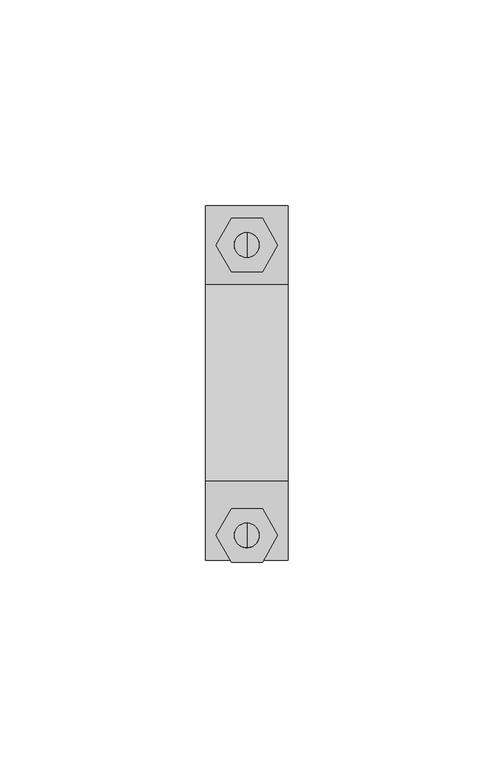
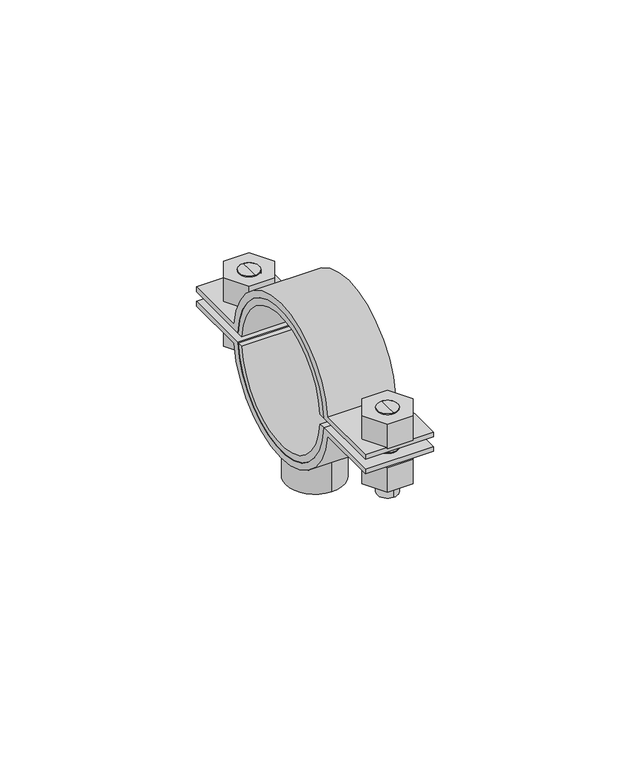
"""IFC4 building model written with IfcOpenShell, lengths in millimetres: valve geometry, Superfix DG2 Clamp Extra (based on pipe) : Superfix DG2 Clamp Extra (based on pipe)."""

from ifc_helpers import new_model, si_unit, point, frame, frame_2d, origin, origin_2d, place, context, project, spatial, polyline, circle_curve, trimmed, segment, composite_curve, outline, extrude, source, transform, mapped, element, save
from ifc_brep_helpers import plane_surface, cylinder_surface, advanced_brep


def valve_f37b9a3f(model_context):
    return source(origin(), model_context, "Body", "SolidModel", [
        advanced_brep(
        [(0.0, 36.5, 342.9002332), (0.0, 30.5, 342.9002332), (0.0, 30.5, 357.0002332), (0.0, 36.5, 357.0002332), (0.0, 33.5, 342.9002332)],
        [
            (0, 1, circle_curve(frame((0.0, 33.5, 342.9002332), z_axis=(0.0, 0.0, 1.0), x_axis=(0.0, 1.0, 0.0)), 3.0)),
            (1, 2),
            (2, 3, circle_curve(frame((0.0, 33.5, 357.0002332), z_axis=(0.0, 0.0, -1.0), x_axis=(0.0, 1.0, 0.0)), 3.0)),
            (3, 0),
            (1, 0, circle_curve(frame((0.0, 33.5, 342.9002332), z_axis=(0.0, 0.0, 1.0), x_axis=(0.0, 1.0, 0.0)), 3.0)),
            (3, 2, circle_curve(frame((0.0, 33.5, 357.0002332), z_axis=(0.0, 0.0, -1.0), x_axis=(0.0, 1.0, 0.0)), 3.0)),
            (0, 4),
            (4, 1),
        ],
        [
            cylinder_surface(frame((0.0, 33.5, 356.7808426), z_axis=(0.0, 0.0, 1.0), x_axis=(0.0, 1.0, 0.0)), 3.0),
            plane_surface(frame((0.0, 33.5, 342.9002332), z_axis=(0.0, 0.0, -1.0), x_axis=(0.0, 1.0, 0.0))),
            plane_surface(frame((13.75, -43.0, 357.0002332), z_axis=(0.0, 0.0, 1.0), x_axis=(-1.0, 0.0, 0.0))),
        ],
        [
            (0, [[1, 2, 3, 4]]),
            (0, [[5, -4, 6, -2]]),
            (1, [[-1, 7, 8]]),
            (1, [[-5, -8, -7]]),
            (2, [[-3, -6]]),
        ],
    ),
        advanced_brep(
        [(0.0, 30.5, 369.1002332), (0.0, 36.5, 369.1002332), (0.0, 36.5, 360.0002332), (0.0, 30.5, 360.0002332), (0.0, 33.5, 369.1002332)],
        [
            (0, 1, circle_curve(frame((0.0, 33.5, 369.1002332), z_axis=(0.0, 0.0, -1.0), x_axis=(0.0, 1.0, 0.0)), 3.0)),
            (1, 2),
            (2, 3, circle_curve(frame((0.0, 33.5, 360.0002332), z_axis=(0.0, 0.0, 1.0), x_axis=(0.0, 1.0, 0.0)), 3.0)),
            (3, 0),
            (1, 0, circle_curve(frame((0.0, 33.5, 369.1002332), z_axis=(0.0, 0.0, -1.0), x_axis=(0.0, 1.0, 0.0)), 3.0)),
            (3, 2, circle_curve(frame((0.0, 33.5, 360.0002332), z_axis=(0.0, 0.0, 1.0), x_axis=(0.0, 1.0, 0.0)), 3.0)),
            (0, 4),
            (4, 1),
        ],
        [
            cylinder_surface(frame((0.0, 33.5, 356.7808426), z_axis=(0.0, 0.0, 1.0), x_axis=(0.0, 1.0, 0.0)), 3.0),
            plane_surface(frame((0.0, 33.5, 369.1002332), z_axis=(0.0, 0.0, 1.0), x_axis=(0.0, 1.0, 0.0))),
            plane_surface(frame((13.75, 43.0, 360.0002332), z_axis=(0.0, 0.0, -1.0), x_axis=(-1.0, 0.0, 0.0))),
        ],
        [
            (0, [[1, 2, 3, 4]]),
            (0, [[5, -4, 6, -2]]),
            (1, [[-1, 7, 8]]),
            (1, [[-5, -8, -7]]),
            (2, [[-3, -6]]),
        ],
    ),
        advanced_brep(
        [(0.0, -40.0, 369.1002332), (0.0, -34.0, 369.1002332), (0.0, -34.0, 360.0002332), (0.0, -40.0, 360.0002332), (0.0, -37.0, 369.1002332)],
        [
            (0, 1, circle_curve(frame((0.0, -37.0, 369.1002332), z_axis=(0.0, 0.0, -1.0), x_axis=(0.0, -1.0, 0.0)), 3.0)),
            (1, 2),
            (2, 3, circle_curve(frame((0.0, -37.0, 360.0002332), z_axis=(0.0, 0.0, 1.0), x_axis=(0.0, -1.0, 0.0)), 3.0)),
            (3, 0),
            (1, 0, circle_curve(frame((0.0, -37.0, 369.1002332), z_axis=(0.0, 0.0, -1.0), x_axis=(0.0, -1.0, 0.0)), 3.0)),
            (3, 2, circle_curve(frame((0.0, -37.0, 360.0002332), z_axis=(0.0, 0.0, 1.0), x_axis=(0.0, -1.0, 0.0)), 3.0)),
            (0, 4),
            (4, 1),
        ],
        [
            cylinder_surface(frame((0.0, -37.0, 356.7808426), z_axis=(0.0, 0.0, -1.0), x_axis=(0.0, -1.0, 0.0)), 3.0),
            plane_surface(frame((0.0, -37.0, 369.1002332), z_axis=(0.0, 0.0, 1.0), x_axis=(0.0, -1.0, 0.0))),
            plane_surface(frame((13.75, 43.0, 360.0002332), z_axis=(0.0, 0.0, -1.0), x_axis=(-1.0, 0.0, 0.0))),
        ],
        [
            (0, [[1, 2, 3, 4]]),
            (0, [[5, -4, 6, -2]]),
            (1, [[-1, 7, 8]]),
            (1, [[-5, -8, -7]]),
            (2, [[-3, -6]]),
        ],
    ),
        advanced_brep(
        [(0.0, -34.0, 342.9002332), (0.0, -40.0, 342.9002332), (0.0, -40.0, 357.0002332), (0.0, -34.0, 357.0002332), (0.0, -37.0, 342.9002332)],
        [
            (0, 1, circle_curve(frame((0.0, -37.0, 342.9002332), z_axis=(0.0, 0.0, 1.0), x_axis=(0.0, -1.0, 0.0)), 3.0)),
            (1, 2),
            (2, 3, circle_curve(frame((0.0, -37.0, 357.0002332), z_axis=(0.0, 0.0, -1.0), x_axis=(0.0, -1.0, 0.0)), 3.0)),
            (3, 0),
            (1, 0, circle_curve(frame((0.0, -37.0, 342.9002332), z_axis=(0.0, 0.0, 1.0), x_axis=(0.0, -1.0, 0.0)), 3.0)),
            (3, 2, circle_curve(frame((0.0, -37.0, 357.0002332), z_axis=(0.0, 0.0, -1.0), x_axis=(0.0, -1.0, 0.0)), 3.0)),
            (0, 4),
            (4, 1),
        ],
        [
            cylinder_surface(frame((0.0, -37.0, 356.7808426), z_axis=(0.0, 0.0, -1.0), x_axis=(0.0, -1.0, 0.0)), 3.0),
            plane_surface(frame((0.0, -37.0, 342.9002332), z_axis=(0.0, 0.0, -1.0), x_axis=(0.0, -1.0, 0.0))),
            plane_surface(frame((13.75, -43.0, 357.0002332), z_axis=(0.0, 0.0, 1.0), x_axis=(-1.0, 0.0, 0.0))),
        ],
        [
            (0, [[1, 2, 3, 4]]),
            (0, [[5, -4, 6, -2]]),
            (1, [[-1, 7, 8]]),
            (1, [[-5, -8, -7]]),
            (2, [[-3, -6]]),
        ],
    ),
        extrude(outline(composite_curve([segment(trimmed(circle_curve(frame_2d((0.0, 358.5002332)), 22.0), [point((-21.9488041, 357.0002332))], [point((21.9488041, 357.0002332))], True, "CARTESIAN"), True, "CONTINUOUS"), segment(polyline([(21.9488041, 357.0002332), (43.0, 357.0002332), (43.0, 355.5002332), (23.8117618, 355.5002332)]), True, "CONTINUOUS"), segment(trimmed(circle_curve(frame_2d((0.0, 358.5002332)), 24.0), [point((23.8117618, 355.5002332))], [point((-23.8117618, 355.5002332))], False, "CARTESIAN"), True, "CONTINUOUS"), segment(polyline([(-23.8117618, 355.5002332), (-43.0, 355.5002332), (-43.0, 357.0002332), (-21.9488041, 357.0002332)]), True, "CONTINUOUS")], self_intersect=False)), frame((-10.0, 0.0, 0.0), z_axis=(1.0, 0.0, 0.0), x_axis=(0.0, 1.0, 0.0)), (0.0, 0.0, 1.0), 20.0),
        extrude(outline(composite_curve([segment(trimmed(circle_curve(frame_2d((0.0, 358.5002332)), 22.0), [point((21.9488041, 360.0002332))], [point((-21.9488041, 360.0002332))], True, "CARTESIAN"), True, "CONTINUOUS"), segment(polyline([(-21.9488041, 360.0002332), (-43.0, 360.0002332), (-43.0, 361.5002332), (-23.8117618, 361.5002332)]), True, "CONTINUOUS"), segment(trimmed(circle_curve(frame_2d((0.0, 358.5002332)), 24.0), [point((-23.8117618, 361.5002332))], [point((23.8117618, 361.5002332))], False, "CARTESIAN"), True, "CONTINUOUS"), segment(polyline([(23.8117618, 361.5002332), (43.0, 361.5002332), (43.0, 360.0002332), (21.9488041, 360.0002332)]), True, "CONTINUOUS")], self_intersect=False)), frame((-10.0, 0.0, 0.0), z_axis=(1.0, 0.0, 0.0), x_axis=(0.0, 1.0, 0.0)), (0.0, 0.0, 1.0), 20.0),
        extrude(outline(polyline([(7.5055535, -37.0), (3.7527767, -43.5), (-3.7527767, -43.5), (-7.5055535, -37.0), (-3.7527767, -30.5), (3.7527767, -30.5), (7.5055535, -37.0)]), holes=[composite_curve([segment(trimmed(circle_curve(frame_2d((0.0, -37.0)), 3.0), [point((3.0, -37.0))], [point((-3.0, -37.0))], True, "CARTESIAN"), True, "CONTINUOUS"), segment(trimmed(circle_curve(frame_2d((0.0, -37.0)), 3.0), [point((-3.0, -37.0))], [point((3.0, -37.0))], True, "CARTESIAN"), True, "CONTINUOUS")], self_intersect=False)]), frame((0.0, 0.0, 361.5002332), z_axis=(0.0, 0.0, 1.0), x_axis=(1.0, 0.0, 0.0)), (0.0, 0.0, 1.0), 7.6),
        extrude(outline(polyline([(7.5055535, 33.5), (3.7527767, 27.0), (-3.7527767, 27.0), (-7.5055535, 33.5), (-3.7527767, 40.0), (3.7527767, 40.0), (7.5055535, 33.5)]), holes=[composite_curve([segment(trimmed(circle_curve(frame_2d((0.0, 33.5)), 3.0), [point((3.0, 33.5))], [point((-3.0, 33.5))], True, "CARTESIAN"), True, "CONTINUOUS"), segment(trimmed(circle_curve(frame_2d((0.0, 33.5)), 3.0), [point((-3.0, 33.5))], [point((3.0, 33.5))], True, "CARTESIAN"), True, "CONTINUOUS")], self_intersect=False)]), frame((0.0, 0.0, 361.5002332), z_axis=(0.0, 0.0, 1.0), x_axis=(1.0, 0.0, 0.0)), (0.0, 0.0, 1.0), 7.6),
        extrude(outline(polyline([(7.5055535, -37.0), (3.7527767, -43.5), (-3.7527767, -43.5), (-7.5055535, -37.0), (-3.7527767, -30.5), (3.7527767, -30.5), (7.5055535, -37.0)]), holes=[composite_curve([segment(trimmed(circle_curve(frame_2d((0.0, -37.0)), 3.0), [point((3.0, -37.0))], [point((-3.0, -37.0))], True, "CARTESIAN"), True, "CONTINUOUS"), segment(trimmed(circle_curve(frame_2d((0.0, -37.0)), 3.0), [point((-3.0, -37.0))], [point((3.0, -37.0))], True, "CARTESIAN"), True, "CONTINUOUS")], self_intersect=False)]), frame((0.0, 0.0, 347.9002332), z_axis=(0.0, 0.0, 1.0), x_axis=(1.0, 0.0, 0.0)), (0.0, 0.0, 1.0), 7.6),
        extrude(outline(polyline([(7.5055535, 33.5), (3.7527767, 27.0), (-3.7527767, 27.0), (-7.5055535, 33.5), (-3.7527767, 40.0), (3.7527767, 40.0), (7.5055535, 33.5)]), holes=[composite_curve([segment(trimmed(circle_curve(frame_2d((0.0, 33.5)), 3.0), [point((3.0, 33.5))], [point((-3.0, 33.5))], True, "CARTESIAN"), True, "CONTINUOUS"), segment(trimmed(circle_curve(frame_2d((0.0, 33.5)), 3.0), [point((-3.0, 33.5))], [point((3.0, 33.5))], True, "CARTESIAN"), True, "CONTINUOUS")], self_intersect=False)]), frame((0.0, 0.0, 347.9002332), z_axis=(0.0, 0.0, 1.0), x_axis=(1.0, 0.0, 0.0)), (0.0, 0.0, 1.0), 7.6),
        extrude(outline(composite_curve([segment(trimmed(circle_curve(origin_2d(), 8.5), [point((0.0, 8.5))], [point((0.0, -8.5))], False, "CARTESIAN"), True, "CONTINUOUS"), segment(trimmed(circle_curve(origin_2d(), 8.5), [point((0.0, -8.5))], [point((0.0, 8.5))], False, "CARTESIAN"), True, "CONTINUOUS")], self_intersect=False), holes=[composite_curve([segment(trimmed(circle_curve(origin_2d(), 5.0), [point((0.0, 5.0))], [point((0.0, -5.0))], True, "CARTESIAN"), True, "CONTINUOUS"), segment(trimmed(circle_curve(origin_2d(), 5.0), [point((0.0, -5.0))], [point((0.0, 5.0))], True, "CARTESIAN"), True, "CONTINUOUS")], self_intersect=False)]), frame((0.0, 0.0, 325.5002332), z_axis=(0.0, 0.0, 1.0), x_axis=(1.0, 0.0, 0.0)), (0.0, 0.0, 1.0), 11.5),
        extrude(outline(composite_curve([segment(trimmed(circle_curve(frame_2d((0.0, 358.5002332)), 20.0), [point((19.9436707, 360.0002332))], [point((-19.9436707, 360.0002332))], True, "CARTESIAN"), True, "CONTINUOUS"), segment(polyline([(-19.9436707, 360.0002332), (-21.9488041, 360.0002332)]), True, "CONTINUOUS"), segment(trimmed(circle_curve(frame_2d((0.0, 358.5002332)), 22.0), [point((-21.9488041, 360.0002332))], [point((21.9488041, 360.0002332))], False, "CARTESIAN"), True, "CONTINUOUS"), segment(polyline([(21.9488041, 360.0002332), (19.9436707, 360.0002332)]), True, "CONTINUOUS")], self_intersect=False)), frame((-10.0, 0.0, 0.0), z_axis=(1.0, 0.0, 0.0), x_axis=(0.0, 1.0, 0.0)), (0.0, 0.0, 1.0), 20.0),
        extrude(outline(composite_curve([segment(polyline([(19.9436707, 357.0002332), (21.9488041, 357.0002332)]), True, "CONTINUOUS"), segment(trimmed(circle_curve(frame_2d((0.0, 358.5002332)), 22.0), [point((21.9488041, 357.0002332))], [point((-21.9488041, 357.0002332))], False, "CARTESIAN"), True, "CONTINUOUS"), segment(polyline([(-21.9488041, 357.0002332), (-19.9436707, 357.0002332)]), True, "CONTINUOUS"), segment(trimmed(circle_curve(frame_2d((0.0, 358.5002332)), 20.0), [point((-19.9436707, 357.0002332))], [point((19.9436707, 357.0002332))], True, "CARTESIAN"), True, "CONTINUOUS")], self_intersect=False)), frame((-10.0, 0.0, 0.0), z_axis=(1.0, 0.0, 0.0), x_axis=(0.0, 1.0, 0.0)), (0.0, 0.0, 1.0), 20.0),
    ])


if __name__ == "__main__":
    model = new_model("IFC4")
    model_context = context("Model", 3, world=origin())
    ifc_project = project(units=[si_unit("LENGTHUNIT", "METRE", prefix="MILLI")], contexts=[model_context])
    site = spatial("IfcSite", under=ifc_project)
    building = spatial("IfcBuilding", under=site)
    placement = place(None, origin())
    valve_shape = valve_f37b9a3f(model_context)
    element("IfcValve", 1, ObjectType="Superfix DG2 Clamp Extra (based on pipe) : Superfix DG2 Clamp Extra (based on pipe)", at=placement, inside=building, context=model_context, shape_type="MappedRepresentation", body=[
        mapped(valve_shape, transform((0.0, 0.0, 0.0), x_axis=(1.0, 0.0, 0.0), y_axis=(0.0, 1.0, 0.0), z_axis=(0.0, 0.0, 1.0))),
    ])
    save(model, "model.ifc")
